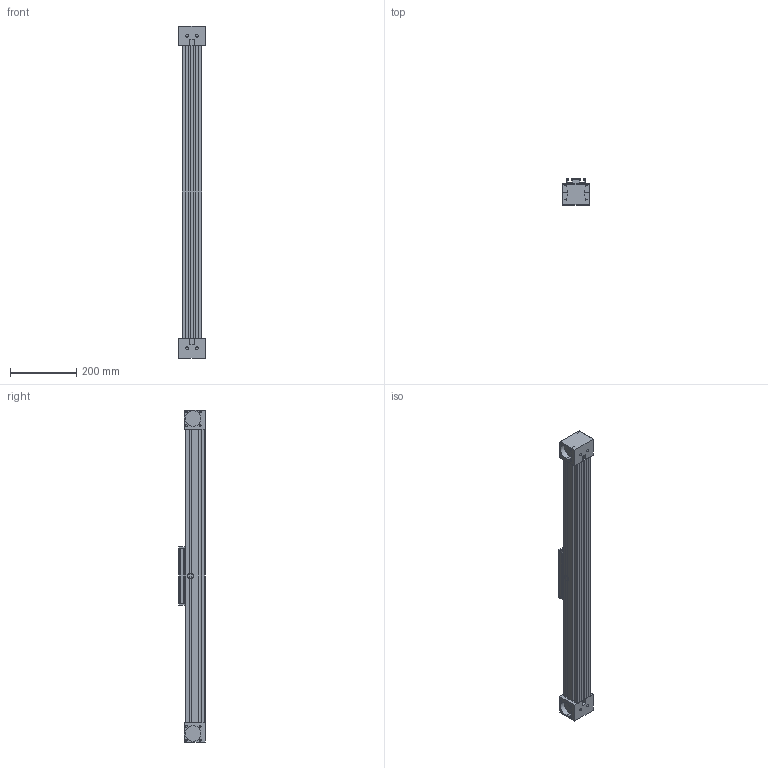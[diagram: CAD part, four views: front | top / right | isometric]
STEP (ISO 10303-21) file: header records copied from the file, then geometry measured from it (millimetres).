
FILE_DESCRIPTION (( 'STEP AP214' ), '1' );
FILE_NAME ('QSRZ60.STEP', '2021-09-30T06:44:23', ( '' ), ( '' ), 'SwSTEP 2.0', 'SolidWorks 2020', '' );
FILE_SCHEMA (( 'AUTOMOTIVE_DESIGN' ));
Length unit declared in the file: millimetre
Products named in the file (4): timing belt reverse unit^QSRZ60_without; profile^QSRZ60; QSRZ60; carriage^QSRZ60_carriage 0
Assembly tree (4 placements, depth 2):
  QSRZ60
    profile^QSRZ60
    carriage^QSRZ60_carriage 0
    timing belt reverse unit^QSRZ60_without  x2
Bounding box: 80 x 79 x 1000 mm (x, y, z)
Volume: 2787751.6 mm3; surface area: 485838.1 mm2
Topology: 8 solids, 8 shells, 267 faces, 665 edges, 438 vertices
Faces by surface type: plane 172, cylinder 87, torus 8
Entity records: 6898 total; most frequent: CARTESIAN_POINT 1165, DIRECTION 1154, ORIENTED_EDGE 1132, EDGE_CURVE 566, VECTOR 432, LINE 432, VERTEX_POINT 372, AXIS2_PLACEMENT_3D 361
